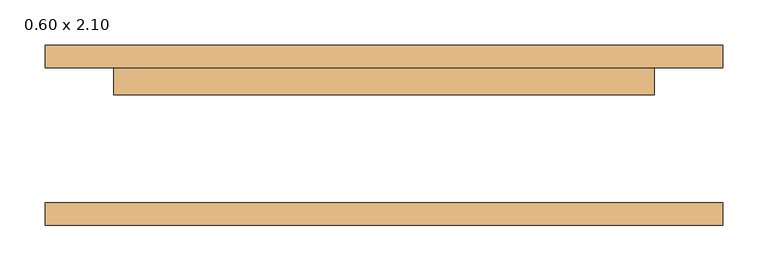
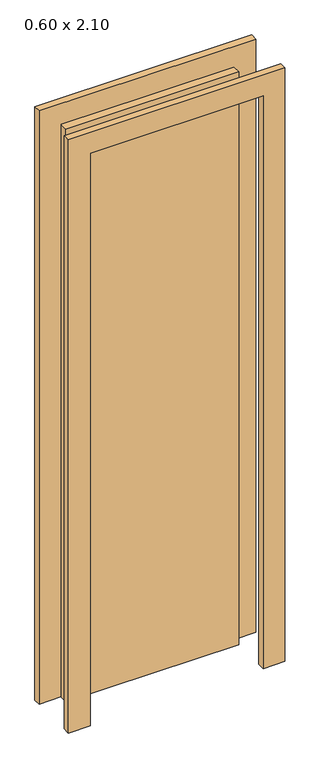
"""IFC4 building model written with IfcOpenShell, lengths in millimetres: door geometry, M_Folha única1 : 0.60 x 2.10."""

from ifc_helpers import new_model, si_unit, frame, origin, origin_with_axes, place, context, project, spatial, polyline, outline, extrude, source, transform, mapped, element, save


def door_0_60_x_2_10_78c4625d(model_context):
    return source(origin(), model_context, "Body", "SweptSolid", [
        extrude(outline(polyline([(2176.0, -376.0), (0.0, -376.0), (0.0, -300.0), (2100.0, -300.0), (2100.0, 300.0), (0.0, 300.0), (0.0, 376.0), (2176.0, 376.0), (2176.0, -376.0)])), frame((0.0, 75.0, 0.0), z_axis=(0.0, 1.0, 0.0), x_axis=(0.0, 0.0, 1.0)), (0.0, 0.0, 1.0), 25.0),
        extrude(outline(polyline([(2176.0, 376.0), (2176.0, -376.0), (0.0, -376.0), (0.0, -300.0), (2100.0, -300.0), (2100.0, 300.0), (0.0, 300.0), (0.0, 376.0), (2176.0, 376.0)])), frame((0.0, -100.0, 0.0), z_axis=(0.0, 1.0, 0.0), x_axis=(0.0, 0.0, 1.0)), (0.0, 0.0, 1.0), 25.0),
        extrude(outline(polyline([(300.0, 45.0), (-300.0, 45.0), (-300.0, 75.0), (300.0, 75.0), (300.0, 45.0)])), origin_with_axes(), (0.0, 0.0, 1.0), 2100.0),
    ])


if __name__ == "__main__":
    model = new_model("IFC4")
    model_context = context("Model", 3, world=origin())
    ifc_project = project(units=[si_unit("LENGTHUNIT", "METRE", prefix="MILLI")], contexts=[model_context])
    site = spatial("IfcSite", under=ifc_project)
    building = spatial("IfcBuilding", under=site)
    placement = place(None, origin())
    door_0_60_x_2_10_shape = door_0_60_x_2_10_78c4625d(model_context)
    element("IfcDoor", 1, ObjectType="M_Folha única1 : 0.60 x 2.10", at=placement, inside=building, context=model_context, shape_type="MappedRepresentation", body=[
        mapped(door_0_60_x_2_10_shape, transform((0.0, 0.0, 0.0), x_axis=(1.0, 0.0, 0.0), y_axis=(0.0, 1.0, 0.0), z_axis=(0.0, 0.0, 1.0))),
    ])
    save(model, "model.ifc")
